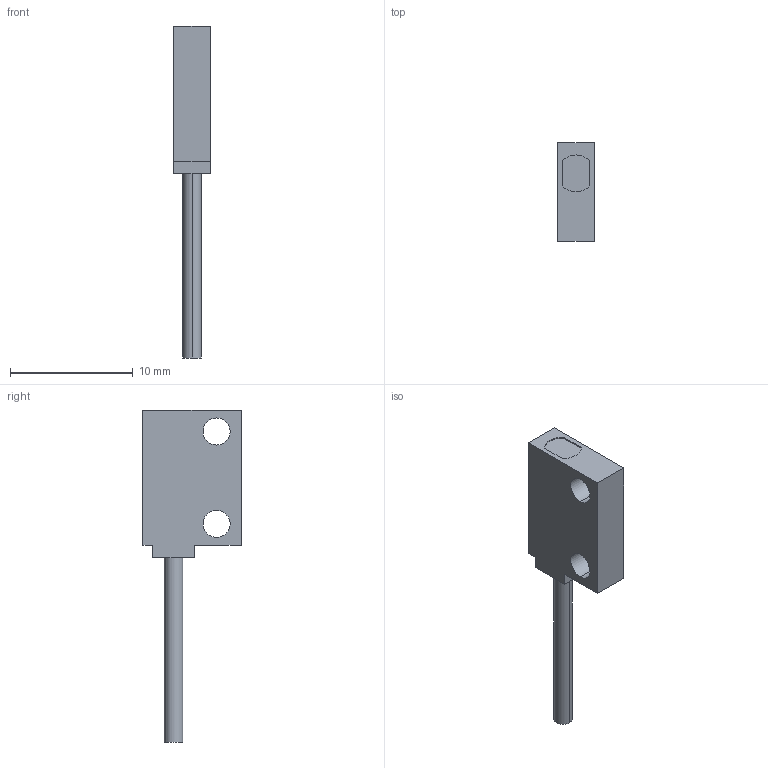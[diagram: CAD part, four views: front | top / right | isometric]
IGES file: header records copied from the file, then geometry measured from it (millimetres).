
Start section: SolidWorks IGES FILE using analytic representation for surfaces
Global section: file name: \\intra-srv04\開発データ\CAD_Data\CAD委員会\3D電子ｶﾀﾛｸﾞ\製品カタログ（新）\0_IGES\FT-Z8H.IGS,41HSolidWorks 2004; native system: by SolidWorks Corporation; preprocessor: Version 5.3; author: mf1158; date: 050908.131747; units: millimetre
Bounding box: 3 x 8 x 27 mm (x, y, z)
Volume: 277.3 mm3; surface area: 400.7 mm2
Topology: 1 solids, 1 shells, 23 faces, 57 edges, 38 vertices
Faces by surface type: plane 14, revolution 9
